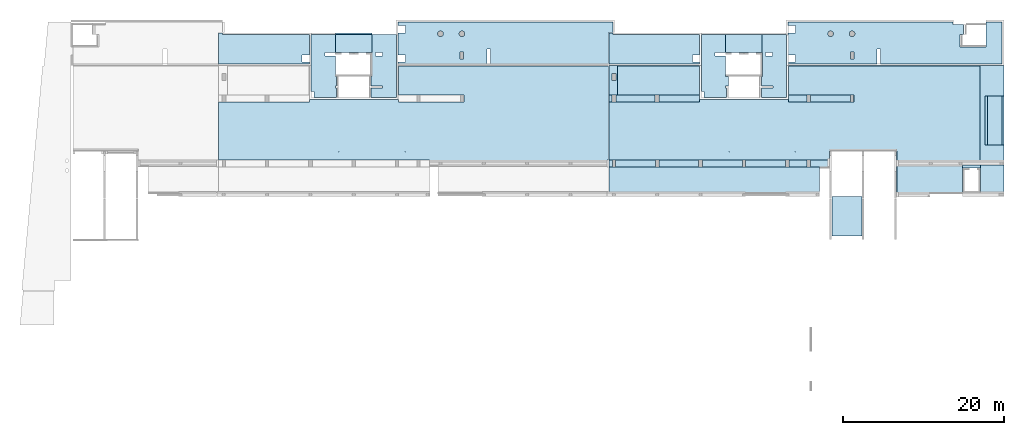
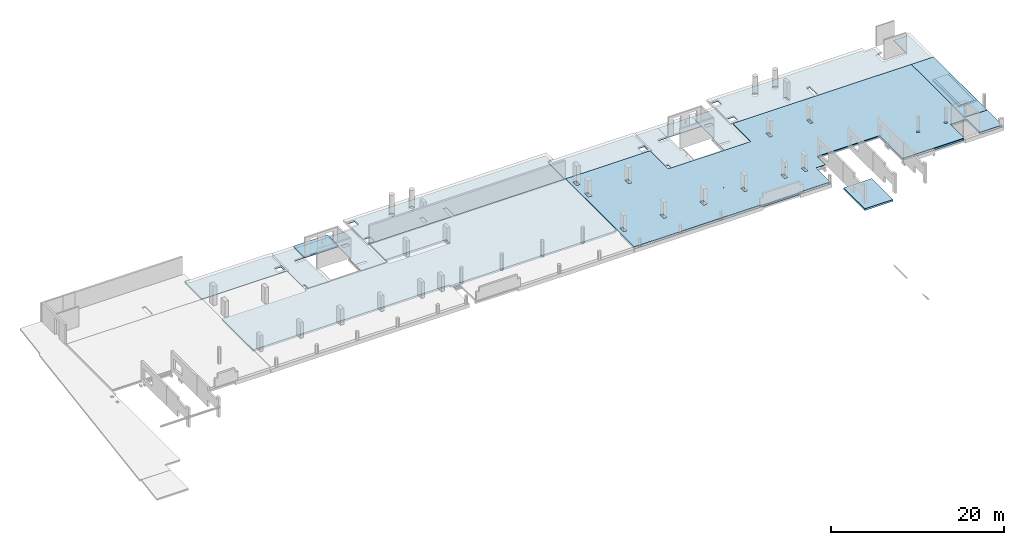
# One storey, part 3 of 8: 24 slabs, 30 openings.
"""IFC2X3 building model written with IfcOpenShell, lengths in millimetres."""

from ifc_helpers import new_model, entity, si_unit, converted_unit, derived_unit, direction, frame, frame_2d, origin, origin_2d_with_axis, place, context, subcontext, project, spatial, polyline, rectangle, circle, outline, extrude, material, layer, layer_set, layer_usage, element, save


model = new_model("IFC2X3")

# Units and contexts
model_context = context("Model", 3, precision=0.01, world=origin(), true_north=direction((6.12303176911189e-17, 1.0)))
body_context = subcontext(model_context, "Body", "Model", "MODEL_VIEW")
ifc_project = project(units=[si_unit("LENGTHUNIT", "METRE", prefix="MILLI"), si_unit("AREAUNIT", "SQUARE_METRE"), si_unit("VOLUMEUNIT", "CUBIC_METRE"), converted_unit("PLANEANGLEUNIT", "DEGREE", entity("IfcRatioMeasure", 0.0174532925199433), si_unit("PLANEANGLEUNIT", "RADIAN"), dimensions=[0, 0, 0, 0, 0, 0, 0]), si_unit("MASSUNIT", "GRAM", prefix="KILO"), derived_unit("MASSDENSITYUNIT", [(si_unit("MASSUNIT", "GRAM", prefix="KILO"), 1), (si_unit("LENGTHUNIT", "METRE"), -3)]), si_unit("TIMEUNIT", "SECOND"), si_unit("FREQUENCYUNIT", "HERTZ"), si_unit("THERMODYNAMICTEMPERATUREUNIT", "DEGREE_CELSIUS"), derived_unit("THERMALTRANSMITTANCEUNIT", [(si_unit("MASSUNIT", "GRAM", prefix="KILO"), 1), (si_unit("THERMODYNAMICTEMPERATUREUNIT", "KELVIN"), -1), (si_unit("TIMEUNIT", "SECOND"), -3)]), derived_unit("VOLUMETRICFLOWRATEUNIT", [(si_unit("LENGTHUNIT", "METRE"), 3), (si_unit("TIMEUNIT", "SECOND"), -1)]), si_unit("ELECTRICCURRENTUNIT", "AMPERE"), si_unit("ELECTRICVOLTAGEUNIT", "VOLT"), si_unit("POWERUNIT", "WATT"), si_unit("FORCEUNIT", "NEWTON", prefix="KILO"), si_unit("ILLUMINANCEUNIT", "LUX"), si_unit("LUMINOUSFLUXUNIT", "LUMEN"), si_unit("LUMINOUSINTENSITYUNIT", "CANDELA"), derived_unit("USERDEFINED", [(si_unit("MASSUNIT", "GRAM", prefix="KILO"), -1), (si_unit("LENGTHUNIT", "METRE"), -2), (si_unit("TIMEUNIT", "SECOND"), 3), (si_unit("LUMINOUSFLUXUNIT", "LUMEN"), 1)]), derived_unit("LINEARVELOCITYUNIT", [(si_unit("LENGTHUNIT", "METRE"), 1), (si_unit("TIMEUNIT", "SECOND"), -1)]), si_unit("PRESSUREUNIT", "PASCAL"), derived_unit("USERDEFINED", [(si_unit("LENGTHUNIT", "METRE"), -2), (si_unit("MASSUNIT", "GRAM", prefix="KILO"), 1), (si_unit("TIMEUNIT", "SECOND"), -2)])], contexts=[model_context])

# Site, building, storey
site_placement = place(None, origin())
site = spatial("IfcSite", under=ifc_project, at=site_placement, Name="Default", CompositionType="ELEMENT")
building_placement = place(site_placement, origin())
building = spatial("IfcBuilding", under=site, at=building_placement, Name="niet gebruiken", CompositionType="ELEMENT")
storey_placement = place(building_placement, frame((0.0, 0.0, 3810.0)))
storey = spatial("IfcBuildingStorey", under=building, at=storey_placement, Name="01a eerste tussenverdieping", CompositionType="ELEMENT", Elevation=3810.0)

# Slabs
ifc_material_1 = material(Name="NLRS_f2_beton prefab")
ifc_layer_1 = layer(ifc_material_1, 255.0)
ifc_layer_set_1 = layer_set([ifc_layer_1], Name="Floor:NLRS_23.21_FL_kanaalplaat d=255_gen")
ifc_layer_usage_1 = layer_usage(ifc_layer_set_1, "AXIS3", "POSITIVE", 0.0)
slab_1_placement = place(storey_placement, frame((110845.0, 25121.0, -325.0)))
element("IfcSlab", 1, at=slab_1_placement, inside=storey, material=ifc_layer_usage_1, Name="Floor:NLRS_23.21_FL_kanaalplaat d=255_gen", ObjectType="Floor:NLRS_23.21_FL_kanaalplaat d=255_gen", PredefinedType="FLOOR", context=body_context, shape_type="SweptSolid", body=[
    extrude(rectangle(XDim=3539.99999999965, YDim=8210.00000000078, at=frame_2d((2572.49999999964, 0.0), x_axis=(0.0, 1.0))), frame((6677.50000000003, 1770.0, 255.0), z_axis=(0.0, 0.0, -1.0), x_axis=(-1.0, 0.0, 0.0)), (0.0, 0.0, 1.0), 255.0),
])
slab_2_placement = place(storey_placement, frame((110845.0, 25121.0, -325.0)))
element("IfcSlab", 2, at=slab_2_placement, inside=storey, material=ifc_layer_usage_1, Name="Floor:NLRS_23.21_FL_kanaalplaat d=255_gen:2", ObjectType="Floor:NLRS_23.21_FL_kanaalplaat d=255_gen", PredefinedType="FLOOR", context=body_context, shape_type="SweptSolid", body=[
    extrude(rectangle(XDim=3464.99999999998, YDim=2954.99999999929, at=frame_2d((-5200.0, 37.4999999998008), x_axis=(0.0, -1.0))), frame((6677.50000000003, 1770.0, 255.0), z_axis=(0.0, 0.0, -1.0), x_axis=(-1.0, 0.0, 0.0)), (0.0, 0.0, 1.0), 255.0),
])
ifc_layer_usage_2 = layer_usage(ifc_layer_set_1, "AXIS3", "POSITIVE", 0.0)
slab_3_placement = place(storey_placement, origin())
element("IfcSlab", 3, at=slab_3_placement, inside=storey, material=ifc_layer_usage_2, Name="Floor:NLRS_23.21_FL_kanaalplaat d=255_gen", ObjectType="Floor:NLRS_23.21_FL_kanaalplaat d=255_gen", PredefinedType="FLOOR", context=body_context, shape_type="SweptSolid", body=[
    extrude(outline(polyline([(-791.250000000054, -16323.7500000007), (2448.74999999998, -16323.7500000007), (2448.74999999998, 9911.25000000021), (-791.250000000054, 9911.25000000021), (-791.250000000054, 5686.24999999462), (-866.249999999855, 5686.24999999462), (-866.249999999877, 726.250000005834), (-791.250000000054, 726.250000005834), (-791.250000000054, -16323.7500000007)])), frame((91293.7499999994, 25987.25, -70.0), z_axis=(0.0, 0.0, -1.0), x_axis=(0.0, 1.0, 0.0)), (0.0, 0.0, 1.0), 255.0),
])

# Slab, openings
ifc_material_2 = material(Name="NLRS_f2_beton ihwg")
ifc_layer_2 = layer(ifc_material_2, 70.0)
ifc_layer_set_2 = layer_set([ifc_layer_2], Name="Floor:NLRS_23.21_FL_druklaag d=70 - gevlinderd en ingestrooid_gen")
ifc_layer_usage_3 = layer_usage(ifc_layer_set_2, "AXIS3", "POSITIVE", 0.0)
slab_4_placement = place(storey_placement, frame((74970.0, 25101.0, -70.0)))
slab_4 = element("IfcSlab", 4, at=slab_4_placement, inside=storey, material=ifc_layer_usage_3, Name="Floor:NLRS_23.21_FL_druklaag d=70 - gevlinderd en ingestrooid_gen", ObjectType="Floor:NLRS_23.21_FL_druklaag d=70 - gevlinderd en ingestrooid_gen", PredefinedType="FLOOR", context=body_context, shape_type="SweptSolid", body=[
    extrude(outline(polyline([(24615.0, -7905.0), (24615.0, 7980.0), (13310.0, 7980.0), (13310.0, 3775.0), (2260.0, 3775.0), (2260.0, 7980.0), (-21615.0, 7980.0), (-21615.0, -3700.0), (-24615.0, -3700.0), (-24615.0, -7905.0), (-21640.0, -7905.0), (-21640.0, -4775.0), (-19490.0, -4775.0), (-19490.0, -7905.0), (-19415.0, -7905.0), (-19415.0, -7980.0), (-11240.0, -7980.0), (-11240.0, -2655.0), (-2890.0, -2655.0), (-2890.0, -4625.0), (-1620.0, -4625.0), (-1620.0, -7905.0), (2585.0, -7905.0), (2585.0, -7980.0), (7585.0, -7980.0), (7585.0, -7905.0), (24615.0, -7905.0)])), frame((24615.0, 7980.0, 70.0), z_axis=(0.0, 0.0, -1.0), x_axis=(-1.0, 0.0, 0.0)), (0.0, 0.0, 1.0), 69.9999999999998),
])
opening_1_placement = place(storey_placement, frame((74970.0, 25101.0, -70.0)))
element("IfcOpeningElement", 5, at=opening_1_placement, cuts=slab_4, ObjectType="Opening", context=body_context, shape_type="SweptSolid", body=[
    extrude(circle(Radius=37.5, at=frame_2d((1385.0, -2725.0), x_axis=(1.0, 0.0))), frame((24615.0, 7980.0, 70.0), z_axis=(0.0, 0.0, -1.0), x_axis=(-1.0, 0.0, 0.0)), (0.0, 0.0, 1.0), 69.9999999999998),
])
opening_2_placement = place(storey_placement, frame((74970.0, 25101.0, -70.0)))
element("IfcOpeningElement", 6, at=opening_2_placement, cuts=slab_4, ObjectType="Opening", context=body_context, shape_type="SweptSolid", body=[
    extrude(circle(Radius=37.5, at=frame_2d((9635.0, -2725.0), x_axis=(1.0, 0.0))), frame((24615.0, 7980.0, 70.0), z_axis=(0.0, 0.0, -1.0), x_axis=(-1.0, 0.0, 0.0)), (0.0, 0.0, 1.0), 69.9999999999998),
])
opening_3_placement = place(slab_4_placement, frame((655.0, 14555.0, 70.0)))
element("IfcOpeningElement", 7, at=opening_3_placement, cuts=slab_4, Name="Floor:NLRS_23.21_FL_druklaag d=70 - gevlinderd en ingestrooid_gen:2", ObjectType="Opening", context=body_context, shape_type="SweptSolid", body=[
    extrude(rectangle(XDim=849.999999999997, YDim=499.99999999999, at=origin_2d_with_axis()), frame((0.0, 0.0, 0.0), z_axis=(0.0, 0.0, -1.0), x_axis=(0.0, -1.0, 0.0)), (0.0, 0.0, 1.0), 69.9999999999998),
])
opening_4_placement = place(slab_4_placement, frame((655.0, 11880.0, 70.0)))
element("IfcOpeningElement", 8, at=opening_4_placement, cuts=slab_4, Name="Floor:NLRS_23.21_FL_druklaag d=70 - gevlinderd en ingestrooid_gen:3", ObjectType="Opening", context=body_context, shape_type="SweptSolid", body=[
    extrude(rectangle(XDim=850.000000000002, YDim=499.99999999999, at=origin_2d_with_axis()), frame((0.0, 0.0, 0.0), z_axis=(0.0, 0.0, -1.0), x_axis=(0.0, -1.0, 0.0)), (0.0, 0.0, 1.0), 69.9999999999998),
])
opening_5_placement = place(slab_4_placement, frame((6030.0, 11880.0, 70.0)))
element("IfcOpeningElement", 9, at=opening_5_placement, cuts=slab_4, Name="Floor:NLRS_23.21_FL_druklaag d=70 - gevlinderd en ingestrooid_gen:4", ObjectType="Opening", context=body_context, shape_type="SweptSolid", body=[
    extrude(rectangle(XDim=850.000000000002, YDim=499.99999999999, at=origin_2d_with_axis()), frame((0.0, 0.0, 0.0), z_axis=(0.0, 0.0, -1.0), x_axis=(0.0, -1.0, 0.0)), (0.0, 0.0, 1.0), 69.9999999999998),
])
opening_6_placement = place(slab_4_placement, frame((655.0, 3780.0, 70.0)))
element("IfcOpeningElement", 10, at=opening_6_placement, cuts=slab_4, Name="Floor:NLRS_23.21_FL_druklaag d=70 - gevlinderd en ingestrooid_gen:5", ObjectType="Opening", context=body_context, shape_type="SweptSolid", body=[
    extrude(rectangle(XDim=849.999999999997, YDim=399.999999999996, at=origin_2d_with_axis()), frame((0.0, 0.0, 0.0), z_axis=(0.0, 0.0, -1.0), x_axis=(0.0, -1.0, 0.0)), (0.0, 0.0, 1.0), 69.9999999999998),
])
opening_7_placement = place(slab_4_placement, frame((6030.0, 3780.0, 70.0)))
element("IfcOpeningElement", 11, at=opening_7_placement, cuts=slab_4, Name="Floor:NLRS_23.21_FL_druklaag d=70 - gevlinderd en ingestrooid_gen:6", ObjectType="Opening", context=body_context, shape_type="SweptSolid", body=[
    extrude(rectangle(XDim=849.999999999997, YDim=399.999999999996, at=origin_2d_with_axis()), frame((0.0, 0.0, 0.0), z_axis=(0.0, 0.0, -1.0), x_axis=(0.0, -1.0, 0.0)), (0.0, 0.0, 1.0), 69.9999999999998),
])
opening_8_placement = place(slab_4_placement, frame((11430.0, 3780.0, 70.0)))
element("IfcOpeningElement", 12, at=opening_8_placement, cuts=slab_4, Name="Floor:NLRS_23.21_FL_druklaag d=70 - gevlinderd en ingestrooid_gen:7", ObjectType="Opening", context=body_context, shape_type="SweptSolid", body=[
    extrude(rectangle(XDim=850.000000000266, YDim=499.99999999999, at=origin_2d_with_axis()), frame((0.0, 0.0, 0.0), z_axis=(0.0, 0.0, 1.0), x_axis=(0.0, -1.0, 0.0)), (0.0, 0.0, -1.0), 69.9999999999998),
])
opening_9_placement = place(slab_4_placement, frame((16830.0, 3780.0, 70.0)))
element("IfcOpeningElement", 13, at=opening_9_placement, cuts=slab_4, Name="Floor:NLRS_23.21_FL_druklaag d=70 - gevlinderd en ingestrooid_gen:8", ObjectType="Opening", context=body_context, shape_type="SweptSolid", body=[
    extrude(rectangle(XDim=850.000000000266, YDim=400.000000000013, at=origin_2d_with_axis()), frame((0.0, 0.0, 0.0), z_axis=(0.0, 0.0, 1.0), x_axis=(0.0, -1.0, 0.0)), (0.0, 0.0, -1.0), 69.9999999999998),
])
opening_10_placement = place(slab_4_placement, frame((22230.0, 3780.0, 70.0)))
element("IfcOpeningElement", 14, at=opening_10_placement, cuts=slab_4, Name="Floor:NLRS_23.21_FL_druklaag d=70 - gevlinderd en ingestrooid_gen:9", ObjectType="Opening", context=body_context, shape_type="SweptSolid", body=[
    extrude(rectangle(XDim=849.999999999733, YDim=400.000000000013, at=origin_2d_with_axis()), frame((0.0, 0.0, 0.0), z_axis=(0.0, 0.0, -1.0), x_axis=(0.0, -1.0, 0.0)), (0.0, 0.0, 1.0), 69.9999999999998),
])
opening_11_placement = place(slab_4_placement, frame((24905.0, 3780.0, 70.0)))
element("IfcOpeningElement", 15, at=opening_11_placement, cuts=slab_4, Name="Floor:NLRS_23.21_FL_druklaag d=70 - gevlinderd en ingestrooid_gen:10", ObjectType="Opening", context=body_context, shape_type="SweptSolid", body=[
    extrude(rectangle(XDim=850.000000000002, YDim=400.000000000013, at=origin_2d_with_axis()), frame((0.0, 0.0, 0.0), z_axis=(0.0, 0.0, -1.0), x_axis=(0.0, -1.0, 0.0)), (0.0, 0.0, 1.0), 69.9999999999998),
])
opening_12_placement = place(slab_4_placement, frame((40105.0, 3780.0, 70.0)))
element("IfcOpeningElement", 16, at=opening_12_placement, cuts=slab_4, Name="Floor:NLRS_23.21_FL_druklaag d=70 - gevlinderd en ingestrooid_gen:11", ObjectType="Opening", context=body_context, shape_type="SweptSolid", body=[
    extrude(circle(Radius=200.0, at=origin_2d_with_axis()), frame((0.0, 0.0, 0.0), z_axis=(0.0, 0.0, -1.0), x_axis=(1.0, 0.0, 0.0)), (0.0, 0.0, 1.0), 69.9999999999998),
])
opening_13_placement = place(slab_4_placement, frame((43830.0, 3780.0, 70.0)))
element("IfcOpeningElement", 17, at=opening_13_placement, cuts=slab_4, Name="Floor:NLRS_23.21_FL_druklaag d=70 - gevlinderd en ingestrooid_gen:12", ObjectType="Opening", context=body_context, shape_type="SweptSolid", body=[
    extrude(circle(Radius=200.0, at=origin_2d_with_axis()), frame((0.0, 0.0, 0.0), z_axis=(0.0, 0.0, -1.0), x_axis=(1.0, 0.0, 0.0)), (0.0, 0.0, 1.0), 69.9999999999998),
])
opening_14_placement = place(slab_4_placement, frame((24905.0, 11880.0, 70.0)))
element("IfcOpeningElement", 18, at=opening_14_placement, cuts=slab_4, Name="Floor:NLRS_23.21_FL_druklaag d=70 - gevlinderd en ingestrooid_gen:13", ObjectType="Opening", context=body_context, shape_type="SweptSolid", body=[
    extrude(rectangle(XDim=850.000000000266, YDim=399.999999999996, at=origin_2d_with_axis()), frame((0.0, 0.0, 0.0), z_axis=(0.0, 0.0, 1.0), x_axis=(0.0, -1.0, 0.0)), (0.0, 0.0, -1.0), 69.9999999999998),
])
opening_15_placement = place(slab_4_placement, frame((30305.0, 11880.0, 70.0)))
element("IfcOpeningElement", 19, at=opening_15_placement, cuts=slab_4, Name="Floor:NLRS_23.21_FL_druklaag d=70 - gevlinderd en ingestrooid_gen:14", ObjectType="Opening", context=body_context, shape_type="SweptSolid", body=[
    extrude(rectangle(XDim=400.000000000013, YDim=850.000000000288, at=origin_2d_with_axis()), frame((0.0, 0.0, 0.0), z_axis=(0.0, 0.0, -1.0), x_axis=(1.0, 0.0, 0.0)), (0.0, 0.0, 1.0), 69.9999999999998),
])

ifc_layer_usage_4 = layer_usage(ifc_layer_set_1, "AXIS3", "POSITIVE", 0.0)
slab_5_placement = place(storey_placement, frame((26370.0, 29101.0, -325.0)))
slab_5 = element("IfcSlab", 20, at=slab_5_placement, inside=storey, material=ifc_layer_usage_4, Name="Floor:NLRS_23.21_FL_kanaalplaat d=255_gen:2", ObjectType="Floor:NLRS_23.21_FL_kanaalplaat d=255_gen", PredefinedType="FLOOR", context=body_context, shape_type="SweptSolid", body=[
    extrude(outline(polyline([(-2000.0, -5745.02740930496), (24290.0, -5745.02740930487), (24290.0, 1465.0), (12985.0, 1465.0), (12985.0, 1765.0), (1915.0, 1765.0), (1915.0, 1465.0), (-6260.0, 1465.0), (-6260.0, 2355.0), (1915.0, 2355.0), (1915.0, 5970.0), (-24290.0, 5970.0), (-24290.0, -5745.0), (-24070.0, -5745.0), (-24070.0, -5970.0), (-2000.0, -5970.0), (-2000.0, -5745.02740930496)])), frame((24290.0, 5970.0, 255.0), z_axis=(0.0, 0.0, -1.0), x_axis=(-1.0, 0.0, 0.0)), (0.0, 0.0, 1.0), 255.0),
])
opening_16_placement = place(storey_placement, frame((26370.0, 29101.0, -325.0)))
element("IfcOpeningElement", 21, at=opening_16_placement, cuts=slab_5, ObjectType="Opening", context=body_context, shape_type="SweptSolid", body=[
    extrude(circle(Radius=37.5, at=frame_2d((1060.0, -4715.0), x_axis=(1.0, 0.0))), frame((24290.0, 5970.0, 255.0), z_axis=(0.0, 0.0, -1.0), x_axis=(-1.0, 0.0, 0.0)), (0.0, 0.0, 1.0), 255.0),
])
opening_17_placement = place(storey_placement, frame((26370.0, 29101.0, -325.0)))
element("IfcOpeningElement", 22, at=opening_17_placement, cuts=slab_5, ObjectType="Opening", context=body_context, shape_type="SweptSolid", body=[
    extrude(circle(Radius=37.5, at=frame_2d((9310.0, -4715.0), x_axis=(1.0, 0.0))), frame((24290.0, 5970.0, 255.0), z_axis=(0.0, 0.0, -1.0), x_axis=(-1.0, 0.0, 0.0)), (0.0, 0.0, 1.0), 255.0),
])

# Slab
ifc_layer_usage_5 = layer_usage(ifc_layer_set_1, "AXIS3", "POSITIVE", 0.0)
slab_6_placement = place(storey_placement, frame((74970.0, 29101.0, -325.0)))
element("IfcSlab", 23, at=slab_6_placement, inside=storey, material=ifc_layer_usage_5, Name="Floor:NLRS_23.21_FL_kanaalplaat d=255_gen", ObjectType="Floor:NLRS_23.21_FL_kanaalplaat d=255_gen", PredefinedType="FLOOR", context=body_context, shape_type="SweptSolid", body=[
    extrude(rectangle(XDim=10200.0, YDim=3615.00000000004, at=frame_2d((18430.0, 4162.49999999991), x_axis=(-1.0, 0.0))), frame((24615.0, 5970.0, 255.0), z_axis=(0.0, 0.0, -1.0), x_axis=(-1.0, 0.0, 0.0)), (0.0, 0.0, 1.0), 255.0),
])

# Slab, openings
slab_7_placement = place(storey_placement, frame((74970.0, 29101.0, -325.0)))
slab_7 = element("IfcSlab", 24, at=slab_7_placement, inside=storey, material=ifc_layer_usage_5, Name="Floor:NLRS_23.21_FL_kanaalplaat d=255_gen:2", ObjectType="Floor:NLRS_23.21_FL_kanaalplaat d=255_gen", PredefinedType="FLOOR", context=body_context, shape_type="SweptSolid", body=[
    extrude(outline(polyline([(-2870.0, -5745.0), (24615.0, -5745.0), (24615.0, 1465.0), (13309.9998491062, 1465.0), (13309.9998491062, 1765.0), (2260.00015089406, 1765.0), (2260.00015089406, 1465.0), (-5935.0, 1465.0), (-5935.0, 2355.0), (2240.0, 2355.0), (2240.0, 5970.0), (-24615.0, 5970.0), (-24615.0, 2537.74999999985), (-22215.0, 2537.74999999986), (-22215.0, -4176.0), (-24615.0, -4176.0), (-24615.0, -5970.0), (-11260.0, -5970.0), (-11260.0, -4615.0), (-2870.0, -4615.0), (-2870.0, -5745.0)])), frame((24615.0, 5970.0, 255.0), z_axis=(0.0, 0.0, -1.0), x_axis=(-1.0, 0.0, 0.0)), (0.0, 0.0, 1.0), 255.0),
])
opening_18_placement = place(storey_placement, frame((74970.0, 29101.0, -325.0)))
element("IfcOpeningElement", 25, at=opening_18_placement, cuts=slab_7, ObjectType="Opening", context=body_context, shape_type="SweptSolid", body=[
    extrude(circle(Radius=37.5, at=frame_2d((1385.0, -4715.0), x_axis=(1.0, 0.0))), frame((24615.0, 5970.0, 255.0), z_axis=(0.0, 0.0, -1.0), x_axis=(-1.0, 0.0, 0.0)), (0.0, 0.0, 1.0), 255.0),
])
opening_19_placement = place(storey_placement, frame((74970.0, 29101.0, -325.0)))
element("IfcOpeningElement", 26, at=opening_19_placement, cuts=slab_7, ObjectType="Opening", context=body_context, shape_type="SweptSolid", body=[
    extrude(circle(Radius=37.5, at=frame_2d((9635.0, -4715.0), x_axis=(1.0, 0.0))), frame((24615.0, 5970.0, 255.0), z_axis=(0.0, 0.0, -1.0), x_axis=(-1.0, 0.0, 0.0)), (0.0, 0.0, 1.0), 255.0),
])

# Slabs
ifc_layer_usage_6 = layer_usage(ifc_layer_set_1, "AXIS3", "POSITIVE", 0.0)
slab_8_placement = place(storey_placement, origin())
element("IfcSlab", 27, at=slab_8_placement, inside=storey, material=ifc_layer_usage_6, Name="Floor:NLRS_23.21_FL_kanaalplaat d=255_gen", ObjectType="Floor:NLRS_23.21_FL_kanaalplaat d=255_gen", PredefinedType="FLOOR", context=body_context, shape_type="SweptSolid", body=[
    extrude(rectangle(XDim=4910.00000000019, YDim=3760.00000000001, at=frame_2d((-4.32009983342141e-12, 0.0), x_axis=(1.0, 0.0))), frame((104625.0, 22301.0, -1110.0), z_axis=(0.0, 0.0, -1.0), x_axis=(0.0, 1.0, 0.0)), (0.0, 0.0, 1.0), 255.0),
])
ifc_layer_3 = layer(ifc_material_2, 250.0)
ifc_layer_set_3 = layer_set([ifc_layer_3], Name="Floor:NLRS_23.21_FL_breedplaat d=70/250_schil apart_gen")
ifc_layer_usage_7 = layer_usage(ifc_layer_set_3, "AXIS3", "POSITIVE", 0.0)
slab_9_placement = place(storey_placement, frame((40924.9998491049, 42696.0, -340.0)))
element("IfcSlab", 28, at=slab_9_placement, inside=storey, material=ifc_layer_usage_7, Name="Floor:NLRS_23.21_FL_breedplaat d=70/250_schil apart_gen", ObjectType="Floor:NLRS_23.21_FL_breedplaat d=70/250_schil apart_gen", PredefinedType="FLOOR", context=body_context, shape_type="SweptSolid", body=[
    extrude(rectangle(XDim=4549.99999999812, YDim=2459.99999999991, at=frame_2d((0.0, 0.0), x_axis=(-1.0, 0.0))), frame((2275.0, 1230.0, 250.0), z_axis=(0.0, 0.0, -1.0), x_axis=(-1.0, 0.0, 0.0)), (0.0, 0.0, 1.0), 250.0),
])
ifc_layer_4 = layer(ifc_material_2, 260.0)
ifc_layer_set_4 = layer_set([ifc_layer_4], Name="Floor:NLRS_23.21_FL_beton ihwg d=260_gen")
ifc_layer_usage_8 = layer_usage(ifc_layer_set_4, "AXIS3", "POSITIVE", 0.0)
slab_10_placement = place(storey_placement, origin())
element("IfcSlab", 29, at=slab_10_placement, inside=storey, material=ifc_layer_usage_8, Name="Floor:NLRS_23.21_FL_beton ihwg d=260_gen", ObjectType="Floor:NLRS_23.21_FL_beton ihwg d=260_gen", PredefinedType="FLOOR", context=body_context, shape_type="SweptSolid", body=[
    extrude(rectangle(XDim=374.999999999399, YDim=2190.0, at=frame_2d((0.0, -8.64019966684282e-12), x_axis=(1.0, 0.0))), frame((120150.0, 28493.5000000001, -70.0), z_axis=(0.0, 0.0, -1.0), x_axis=(0.0, 1.0, 0.0)), (0.0, 0.0, 1.0), 260.0),
])

# Slab, opening
ifc_layer_5 = layer(ifc_material_1, 70.0)
ifc_layer_set_5 = layer_set([ifc_layer_5], Name="Floor:NLRS_23.21_FL_breedplaatschil d=70_gen")
ifc_layer_usage_9 = layer_usage(ifc_layer_set_5, "AXIS3", "POSITIVE", 0.0)
slab_11_placement = place(storey_placement, frame((26370.0, 41291.0, -250.0)))
slab_11 = element("IfcSlab", 30, at=slab_11_placement, inside=storey, material=ifc_layer_usage_9, Name="Floor:NLRS_23.21_FL_breedplaatschil d=70_gen", ObjectType="Floor:NLRS_23.21_FL_breedplaatschil d=70_gen", PredefinedType="FLOOR", context=body_context, shape_type="SweptSolid", body=[
    extrude(outline(polyline([(5662.49999999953, 1932.49999999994), (5162.49999999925, 1932.49999999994), (5162.49999999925, 1702.49999999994), (-5662.49999999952, 1702.49999999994), (-5662.49999999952, -1932.49999999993), (5662.49999999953, -1932.49999999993), (5662.49999999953, 1932.49999999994)])), frame((5662.49999999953, 1932.49999999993, 70.0), z_axis=(0.0, 0.0, -1.0), x_axis=(-1.0, 0.0, 0.0)), (0.0, 0.0, 1.0), 69.9999999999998),
])
opening_20_placement = place(slab_11_placement, origin())
element("IfcOpeningElement", 31, at=opening_20_placement, cuts=slab_11, ObjectType="Opening", context=body_context, shape_type="SweptSolid", body=[
    extrude(rectangle(XDim=899.999999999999, YDim=900.000000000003, at=origin_2d_with_axis()), frame((10855.0, 645.0, 0.0), z_axis=(0.0, 0.0, 1.0), x_axis=(-1.0, 0.0, 0.0)), (0.0, 0.0, 1.0), 250.0),
])

# Slab
ifc_layer_usage_10 = layer_usage(ifc_layer_set_5, "AXIS3", "POSITIVE", 0.0)
slab_12_placement = place(storey_placement, frame((37905.0, 37086.0, -340.0)))
element("IfcSlab", 32, at=slab_12_placement, inside=storey, material=ifc_layer_usage_10, Name="Floor:NLRS_23.21_FL_breedplaatschil d=70_gen", ObjectType="Floor:NLRS_23.21_FL_breedplaatschil d=70_gen", PredefinedType="FLOOR", context=body_context, shape_type="SweptSolid", body=[
    extrude(outline(polyline([(2295.00015089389, 1250.0), (2295.00015089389, -1280.0), (2170.00021676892, -1280.0), (2170.00021676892, -2460.0), (2292.0, -2460.0), (2292.0, -2700.0), (2170.00021676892, -2700.0), (2170.00021676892, -3920.0), (4975.0, -3920.0), (4975.0, -3180.0), (5295.0, -3180.0), (5295.0, 3920.0), (2275.00015089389, 3920.0), (2275.00015089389, 1690.0), (3572.50015089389, 1690.0), (3572.50015089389, 1250.0), (2295.00015089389, 1250.0)])), frame((5295.0, 3920.0, 70.0), z_axis=(0.0, 0.0, -1.0), x_axis=(-1.0, 0.0, 0.0)), (0.0, 0.0, 1.0), 69.9999999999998),
])

# Slab, opening
slab_13_placement = place(storey_placement, frame((37905.0, 37086.0, -340.0)))
slab_13 = element("IfcSlab", 33, at=slab_13_placement, inside=storey, material=ifc_layer_usage_10, Name="Floor:NLRS_23.21_FL_breedplaatschil d=70_gen:2", ObjectType="Floor:NLRS_23.21_FL_breedplaatschil d=70_gen", PredefinedType="FLOOR", context=body_context, shape_type="SweptSolid", body=[
    extrude(outline(polyline([(-2274.99984910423, 1690.0), (-2274.99984910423, 3920.0), (-5295.0, 3920.0), (-5295.0, -3920.0), (-2169.9997832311, -3920.0), (-2169.9997832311, -2700.0), (-3595.0, -2700.0), (-3595.0, -2460.0), (-2170.0, -2460.0), (-2170.0, -1280.0), (-2294.99984910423, -1280.0), (-2294.99984910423, 1690.0), (-2274.99984910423, 1690.0)])), frame((5295.0, 3920.0, 70.0), z_axis=(0.0, 0.0, -1.0), x_axis=(-1.0, 0.0, 0.0)), (0.0, 0.0, 1.0), 69.9999999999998),
])
opening_21_placement = place(slab_12_placement, frame((8425.0, 5390.0, 70.0)))
element("IfcOpeningElement", 34, at=opening_21_placement, cuts=slab_13, Name="Floor:NLRS_23.21_FL_breedplaatschil d=70_gen:2", ObjectType="Opening", context=body_context, shape_type="SweptSolid", body=[
    extrude(rectangle(XDim=900.000000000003, YDim=450.000000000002, at=origin_2d_with_axis()), frame((0.0, 0.0, 0.0), z_axis=(0.0, 0.0, -1.0), x_axis=(-1.0, 0.0, 0.0)), (0.0, 0.0, 1.0), 69.9999999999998),
])

# Slabs
ifc_layer_usage_11 = layer_usage(ifc_layer_set_5, "AXIS3", "POSITIVE", 0.0)
slab_14_placement = place(storey_placement, origin())
element("IfcSlab", 35, at=slab_14_placement, inside=storey, material=ifc_layer_usage_11, Name="Floor:NLRS_23.21_FL_breedplaatschil d=70_gen", ObjectType="Floor:NLRS_23.21_FL_breedplaatschil d=70_gen", PredefinedType="FLOOR", context=body_context, shape_type="SweptSolid", body=[
    extrude(rectangle(XDim=2209.99999999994, YDim=4549.99999999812, at=frame_2d((4.32009983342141e-12, 0.0), x_axis=(1.0, 0.0))), frame((43199.9998491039, 43821.0, -270.0), z_axis=(0.0, 0.0, -1.0), x_axis=(0.0, 1.0, 0.0)), (0.0, 0.0, 1.0), 69.9999999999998),
])
ifc_layer_usage_12 = layer_usage(ifc_layer_set_5, "AXIS3", "POSITIVE", 0.0)
slab_15_placement = place(storey_placement, frame((86505.0, 37086.0, -340.0)))
element("IfcSlab", 36, at=slab_15_placement, inside=storey, material=ifc_layer_usage_12, Name="Floor:NLRS_23.21_FL_breedplaatschil d=70_gen", ObjectType="Floor:NLRS_23.21_FL_breedplaatschil d=70_gen", PredefinedType="FLOOR", context=body_context, shape_type="SweptSolid", body=[
    extrude(outline(polyline([(2295.00015089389, 1250.0), (2295.00015089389, -1280.0), (1900.00021676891, -1280.0), (1900.00021676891, -2460.0), (2292.0, -2460.0), (2292.0, -2700.0), (2170.00021676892, -2700.0), (2170.00021676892, -3920.0), (4975.0, -3920.0), (4975.0, -3180.0), (5295.0, -3180.0), (5295.0, 3920.0), (2275.00015089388, 3920.0), (2275.00015089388, 1690.0), (3572.50015089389, 1690.0), (3572.50015089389, 1250.0), (2295.00015089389, 1250.0)])), frame((5295.0, 3920.0, 70.0), z_axis=(0.0, 0.0, -1.0), x_axis=(-1.0, 0.0, 0.0)), (0.0, 0.0, 1.0), 69.9999999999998),
])

# Slab, opening
slab_16_placement = place(storey_placement, frame((86505.0, 37086.0, -340.0)))
slab_16 = element("IfcSlab", 37, at=slab_16_placement, inside=storey, material=ifc_layer_usage_12, Name="Floor:NLRS_23.21_FL_breedplaatschil d=70_gen:2", ObjectType="Floor:NLRS_23.21_FL_breedplaatschil d=70_gen", PredefinedType="FLOOR", context=body_context, shape_type="SweptSolid", body=[
    extrude(outline(polyline([(-2274.99984910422, 1690.0), (-2274.99984910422, 3920.0), (-5295.0, 3920.0), (-5295.0, -3920.0), (-2169.9997832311, -3920.0), (-2169.9997832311, -2700.0), (-3595.0, -2700.0), (-3595.0, -2460.0), (-2170.0, -2460.0), (-2170.0, -1280.0), (-2294.99984910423, -1280.0), (-2294.99984910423, 1690.0), (-2274.99984910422, 1690.0)])), frame((5295.0, 3920.0, 70.0), z_axis=(0.0, 0.0, -1.0), x_axis=(-1.0, 0.0, 0.0)), (0.0, 0.0, 1.0), 69.9999999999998),
])
opening_22_placement = place(slab_15_placement, frame((8425.0, 5390.0, 70.0)))
element("IfcOpeningElement", 38, at=opening_22_placement, cuts=slab_16, Name="Floor:NLRS_23.21_FL_breedplaatschil d=70_gen:2", ObjectType="Opening", context=body_context, shape_type="SweptSolid", body=[
    extrude(rectangle(XDim=900.000000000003, YDim=450.000000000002, at=origin_2d_with_axis()), frame((0.0, 0.0, 0.0), z_axis=(0.0, 0.0, -1.0), x_axis=(-1.0, 0.0, 0.0)), (0.0, 0.0, 1.0), 69.9999999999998),
])

# Slab
ifc_layer_usage_13 = layer_usage(ifc_layer_set_5, "AXIS3", "POSITIVE", 0.0)
slab_17_placement = place(storey_placement, origin())
element("IfcSlab", 39, at=slab_17_placement, inside=storey, material=ifc_layer_usage_13, Name="Floor:NLRS_23.21_FL_breedplaatschil d=70_gen", ObjectType="Floor:NLRS_23.21_FL_breedplaatschil d=70_gen", PredefinedType="FLOOR", context=body_context, shape_type="SweptSolid", body=[
    extrude(rectangle(XDim=2209.99999999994, YDim=4549.9999999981, at=frame_2d((4.32009983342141e-12, 0.0), x_axis=(1.0, 0.0))), frame((91800.0, 43821.0, -270.0), z_axis=(0.0, 0.0, -1.0), x_axis=(0.0, 1.0, 0.0)), (0.0, 0.0, 1.0), 69.9999999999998),
])

# Slab, openings
ifc_layer_usage_14 = layer_usage(ifc_layer_set_5, "AXIS3", "POSITIVE", 0.0)
slab_18_placement = place(storey_placement, frame((48705.0, 41291.0, -250.0)))
slab_18 = element("IfcSlab", 40, at=slab_18_placement, inside=storey, material=ifc_layer_usage_14, Name="Floor:NLRS_23.21_FL_breedplaatschil d=70_gen", ObjectType="Floor:NLRS_23.21_FL_breedplaatschil d=70_gen", PredefinedType="FLOOR", context=body_context, shape_type="SweptSolid", body=[
    extrude(outline(polyline([(-13382.5000000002, 2612.4999999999), (-13382.5000000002, 1272.49999999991), (-12862.4999999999, 1272.49999999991), (-12862.4999999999, -2612.4999999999), (1862.49999999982, -2612.4999999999), (1862.49999999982, -792.499999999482), (2312.49999999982, -792.499999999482), (2312.49999999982, -2612.4999999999), (13382.5000000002, -2612.4999999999), (13382.5000000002, -2417.49999999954), (12462.4999999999, -2417.49999999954), (12462.4999999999, -1517.49999999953), (13382.5000000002, -1517.49999999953), (13382.5000000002, 1252.50000000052), (12462.5000000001, 1252.50000000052), (12462.5000000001, 2152.50000000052), (13382.5000000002, 2152.50000000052), (13382.5000000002, 2612.4999999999), (-13382.5000000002, 2612.4999999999)])), frame((13382.5000000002, 2612.4999999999, 70.0), z_axis=(0.0, 0.0, -1.0), x_axis=(-1.0, 0.0, 0.0)), (0.0, 0.0, 1.0), 69.9999999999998),
])
opening_23_placement = place(slab_18_placement, frame((7970.0, 1040.0, 70.0)))
element("IfcOpeningElement", 41, at=opening_23_placement, cuts=slab_18, Name="Floor:NLRS_23.21_FL_breedplaatschil d=70_gen:2", ObjectType="Opening", context=body_context, shape_type="SweptSolid", body=[
    extrude(rectangle(XDim=440.000000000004, YDim=890.000000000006, at=origin_2d_with_axis()), frame((0.0, 0.0, 0.0), z_axis=(0.0, 0.0, -1.0), x_axis=(1.0, 0.0, 0.0)), (0.0, 0.0, 1.0), 69.9999999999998),
])
opening_24_placement = place(slab_18_placement, frame((7970.0, 3740.0, 70.0)))
element("IfcOpeningElement", 42, at=opening_24_placement, cuts=slab_18, Name="Floor:NLRS_23.21_FL_breedplaatschil d=70_gen:3", ObjectType="Opening", context=body_context, shape_type="SweptSolid", body=[
    extrude(circle(Radius=345.0, at=origin_2d_with_axis()), frame((0.0, 0.0, 0.0), z_axis=(0.0, 0.0, -1.0), x_axis=(1.0, 0.0, 0.0)), (0.0, 0.0, 1.0), 69.9999999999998),
])
opening_25_placement = place(slab_18_placement, frame((5295.0, 3740.0, 70.0)))
element("IfcOpeningElement", 43, at=opening_25_placement, cuts=slab_18, Name="Floor:NLRS_23.21_FL_breedplaatschil d=70_gen:4", ObjectType="Opening", context=body_context, shape_type="SweptSolid", body=[
    extrude(circle(Radius=345.0, at=origin_2d_with_axis()), frame((0.0, 0.0, 0.0), z_axis=(0.0, 0.0, -1.0), x_axis=(1.0, 0.0, 0.0)), (0.0, 0.0, 1.0), 69.9999999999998),
])

# Slab, opening
ifc_layer_usage_15 = layer_usage(ifc_layer_set_5, "AXIS3", "POSITIVE", 0.0)
slab_19_placement = place(storey_placement, frame((74970.0, 41291.0, -250.0)))
slab_19 = element("IfcSlab", 44, at=slab_19_placement, inside=storey, material=ifc_layer_usage_15, Name="Floor:NLRS_23.21_FL_breedplaatschil d=70_gen", ObjectType="Floor:NLRS_23.21_FL_breedplaatschil d=70_gen", PredefinedType="FLOOR", context=body_context, shape_type="SweptSolid", body=[
    extrude(outline(polyline([(5662.49999999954, 1932.49999999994), (5162.49999999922, 1932.49999999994), (5162.49999999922, 1702.49999999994), (-5662.49999999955, 1702.49999999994), (-5662.49999999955, -1932.49999999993), (5662.49999999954, -1932.49999999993), (5662.49999999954, 1932.49999999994)])), frame((5662.49999999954, 1932.49999999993, 70.0), z_axis=(0.0, 0.0, -1.0), x_axis=(-1.0, 0.0, 0.0)), (0.0, 0.0, 1.0), 69.9999999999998),
])
opening_26_placement = place(slab_19_placement, origin())
element("IfcOpeningElement", 45, at=opening_26_placement, cuts=slab_19, ObjectType="Opening", context=body_context, shape_type="SweptSolid", body=[
    extrude(rectangle(XDim=900.000000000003, YDim=900.000000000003, at=origin_2d_with_axis()), frame((10855.0, 645.0, 0.0), z_axis=(0.0, 0.0, 1.0), x_axis=(-1.0, 0.0, 0.0)), (0.0, 0.0, 1.0), 250.0),
])

# Slab, openings
ifc_layer_usage_16 = layer_usage(ifc_layer_set_5, "AXIS3", "POSITIVE", 0.0)
slab_20_placement = place(storey_placement, frame((97305.0, 41291.0, -250.0)))
slab_20 = element("IfcSlab", 46, at=slab_20_placement, inside=storey, material=ifc_layer_usage_16, Name="Floor:NLRS_23.21_FL_breedplaatschil d=70_gen", ObjectType="Floor:NLRS_23.21_FL_breedplaatschil d=70_gen", PredefinedType="FLOOR", context=body_context, shape_type="SweptSolid", body=[
    extrude(outline(polyline([(-7222.49999999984, 2612.4999999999), (-7222.49999999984, 2252.50000000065), (-8537.50000000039, 2252.50000000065), (-8537.50000000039, 1022.50000000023), (-8072.49999999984, 1022.50000000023), (-8072.49999999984, -527.49999999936), (-11312.4999999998, -527.49999999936), (-11312.4999999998, 2612.4999999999), (-13332.5000000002, 2612.4999999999), (-13332.5000000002, -2612.4999999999), (1812.49999999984, -2612.4999999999), (1812.49999999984, -792.499999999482), (2262.49999999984, -792.499999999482), (2262.49999999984, -2612.4999999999), (13332.5000000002, -2612.4999999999), (13332.5000000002, -2417.49999999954), (12412.4999999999, -2417.49999999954), (12412.4999999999, -1517.49999999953), (13332.5000000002, -1517.49999999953), (13332.5000000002, 1252.50000000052), (12412.5000000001, 1252.50000000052), (12412.5000000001, 2152.50000000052), (13332.5000000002, 2152.50000000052), (13332.5000000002, 2612.4999999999), (-7222.49999999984, 2612.4999999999)])), frame((13332.5000000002, 2612.4999999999, 70.0), z_axis=(0.0, 0.0, -1.0), x_axis=(-1.0, 0.0, 0.0)), (0.0, 0.0, 1.0), 69.9999999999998),
])
opening_27_placement = place(slab_20_placement, frame((7970.0, 1040.0, 70.0)))
element("IfcOpeningElement", 47, at=opening_27_placement, cuts=slab_20, Name="Floor:NLRS_23.21_FL_breedplaatschil d=70_gen:2", ObjectType="Opening", context=body_context, shape_type="SweptSolid", body=[
    extrude(rectangle(XDim=440.000000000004, YDim=890.000000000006, at=origin_2d_with_axis()), frame((0.0, 0.0, 0.0), z_axis=(0.0, 0.0, -1.0), x_axis=(1.0, 0.0, 0.0)), (0.0, 0.0, 1.0), 69.9999999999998),
])
opening_28_placement = place(slab_20_placement, frame((7970.0, 3740.0, 70.0)))
element("IfcOpeningElement", 48, at=opening_28_placement, cuts=slab_20, Name="Floor:NLRS_23.21_FL_breedplaatschil d=70_gen:3", ObjectType="Opening", context=body_context, shape_type="SweptSolid", body=[
    extrude(circle(Radius=345.0, at=origin_2d_with_axis()), frame((0.0, 0.0, 0.0), z_axis=(0.0, 0.0, -1.0), x_axis=(1.0, 0.0, 0.0)), (0.0, 0.0, 1.0), 69.9999999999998),
])
opening_29_placement = place(slab_20_placement, frame((5295.0, 3740.0, 70.0)))
element("IfcOpeningElement", 49, at=opening_29_placement, cuts=slab_20, Name="Floor:NLRS_23.21_FL_breedplaatschil d=70_gen:4", ObjectType="Opening", context=body_context, shape_type="SweptSolid", body=[
    extrude(circle(Radius=345.0, at=origin_2d_with_axis()), frame((0.0, 0.0, 0.0), z_axis=(0.0, 0.0, -1.0), x_axis=(1.0, 0.0, 0.0)), (0.0, 0.0, 1.0), 69.9999999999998),
])

# Slab, opening
ifc_layer_6 = layer(ifc_material_2, 255.0)
ifc_layer_set_6 = layer_set([ifc_layer_6], Name="Floor:NLRS_23.21_FL_beton ihwg d=255_gen")
ifc_layer_usage_17 = layer_usage(ifc_layer_set_6, "AXIS3", "POSITIVE", 0.0)
slab_21_placement = place(storey_placement, frame((74970.0, 37426.0, -325.0)))
slab_21 = element("IfcSlab", 50, at=slab_21_placement, inside=storey, material=ifc_layer_usage_17, Name="Floor:NLRS_23.21_FL_beton ihwg d=255_gen", ObjectType="Floor:NLRS_23.21_FL_beton ihwg d=255_gen", PredefinedType="FLOOR", context=body_context, shape_type="SweptSolid", body=[
    extrude(rectangle(XDim=3634.99999999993, YDim=1085.00000000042, at=frame_2d((0.0, 0.0), x_axis=(0.0, -1.0))), frame((542.500000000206, 1817.49999999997, 255.0), z_axis=(0.0, 0.0, -1.0), x_axis=(-1.0, 0.0, 0.0)), (0.0, 0.0, 1.0), 255.0),
])
opening_30_placement = place(slab_21_placement, frame((655.0, 2230.0, 255.0)))
element("IfcOpeningElement", 51, at=opening_30_placement, cuts=slab_21, Name="Floor:NLRS_23.21_FL_beton ihwg d=255_gen:2", ObjectType="Opening", context=body_context, shape_type="SweptSolid", body=[
    extrude(rectangle(XDim=849.999999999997, YDim=499.99999999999, at=origin_2d_with_axis()), frame((0.0, 0.0, 0.0), z_axis=(0.0, 0.0, -1.0), x_axis=(0.0, -1.0, 0.0)), (0.0, 0.0, 1.0), 255.0),
])

# Slabs
ifc_layer_usage_18 = layer_usage(ifc_layer_set_2, "AXIS3", "POSITIVE", 0.0)
slab_22_placement = place(storey_placement, origin())
element("IfcSlab", 52, at=slab_22_placement, inside=storey, material=ifc_layer_usage_18, Name="Floor:NLRS_23.21_FL_druklaag d=70 - gevlinderd en ingestrooid_gen", ObjectType="Floor:NLRS_23.21_FL_druklaag d=70 - gevlinderd en ingestrooid_gen", PredefinedType="FLOOR", context=body_context, shape_type="SweptSolid", body=[
    extrude(rectangle(XDim=12380.0000000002, YDim=3000.00000000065, at=frame_2d((4.09272615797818e-12, -8.64019966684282e-12), x_axis=(1.0, 0.0))), frame((122700.0, 34871.0, 0.0), z_axis=(0.0, 0.0, -1.0), x_axis=(0.0, 1.0, 0.0)), (0.0, 0.0, 1.0), 69.9999999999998),
])
ifc_layer_usage_19 = layer_usage(ifc_layer_set_1, "AXIS3", "POSITIVE", 0.0)
slab_23_placement = place(storey_placement, origin())
element("IfcSlab", 53, at=slab_23_placement, inside=storey, material=ifc_layer_usage_19, Name="Floor:NLRS_23.21_FL_kanaalplaat d=255_gen", ObjectType="Floor:NLRS_23.21_FL_kanaalplaat d=255_gen", PredefinedType="FLOOR", context=body_context, shape_type="SweptSolid", body=[
    extrude(rectangle(XDim=6159.74999999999, YDim=2359.98535136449, at=frame_2d((-2.27373675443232e-12, 8.64019966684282e-12), x_axis=(1.0, 0.0))), frame((123020.007324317, 34224.875, -70.0), z_axis=(0.0, 0.0, -1.0), x_axis=(0.0, 1.0, 0.0)), (0.0, 0.0, 1.0), 255.0),
])
ifc_layer_usage_20 = layer_usage(ifc_layer_set_1, "AXIS3", "POSITIVE", 0.0)
slab_24_placement = place(storey_placement, origin())
element("IfcSlab", 54, at=slab_24_placement, inside=storey, material=ifc_layer_usage_20, Name="Floor:NLRS_23.21_FL_kanaalplaat d=255_gen", ObjectType="Floor:NLRS_23.21_FL_kanaalplaat d=255_gen", PredefinedType="FLOOR", context=body_context, shape_type="SweptSolid", body=[
    extrude(rectangle(XDim=6109.74999999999, YDim=1799.98535136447, at=frame_2d((2.04636307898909e-12, 8.69704308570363e-12), x_axis=(1.0, 0.0))), frame((123020.007324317, 34249.875, -70.0), z_axis=(0.0, 0.0, -1.0), x_axis=(0.0, 1.0, 0.0)), (0.0, 0.0, 1.0), 255.0),
])

save(model, "model.ifc")
